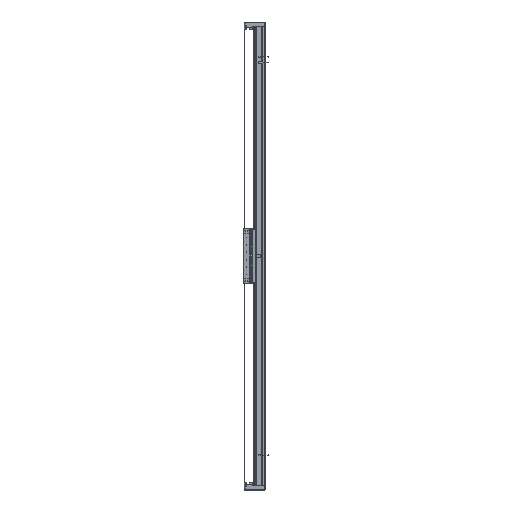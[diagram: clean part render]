
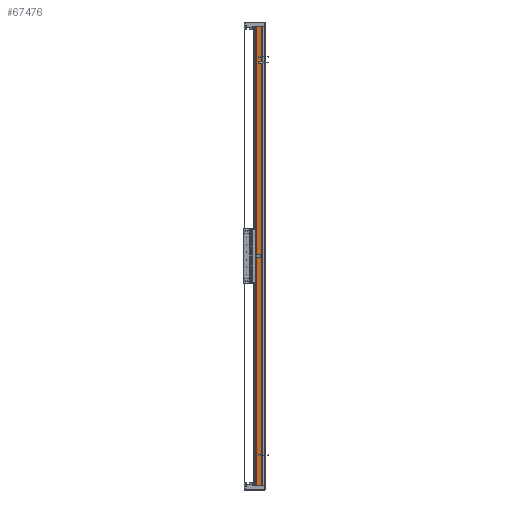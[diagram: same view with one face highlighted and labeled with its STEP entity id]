
A CAD part, left-side view. The second image highlights one B-rep face of the part: STEP entity #67476.
In plain terms, the highlighted planar face has unit normal (-1, 0, 0).
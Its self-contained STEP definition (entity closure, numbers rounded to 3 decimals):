
#3348 = DIRECTION ( 'NONE',  ( 1., 0., 0. ) ) ;
#10624 = LINE ( 'NONE', #82687, #55713 ) ;
#12740 = DIRECTION ( 'NONE',  ( 0., 1., 0. ) ) ;
#16464 = EDGE_CURVE ( 'NONE', #18716, #34701, #111025, .T. ) ;
#17412 = VERTEX_POINT ( 'NONE', #62494 ) ;
#18716 = VERTEX_POINT ( 'NONE', #32690 ) ;
#27760 = CARTESIAN_POINT ( 'NONE',  ( -82.5, 36.95, -1050. ) ) ;
#28319 = CARTESIAN_POINT ( 'NONE',  ( -82.5, 36.95, 1050. ) ) ;
#32690 = CARTESIAN_POINT ( 'NONE',  ( -82.5, 36.95, 1050. ) ) ;
#34701 = VERTEX_POINT ( 'NONE', #67931 ) ;
#37752 = EDGE_CURVE ( 'NONE', #18716, #17412, #10624, .T. ) ;
#39866 = AXIS2_PLACEMENT_3D ( 'NONE', #52141, #3348, #12740 ) ;
#42334 = CARTESIAN_POINT ( 'NONE',  ( -82.5, 14.45, 1050. ) ) ;
#47243 = CARTESIAN_POINT ( 'NONE',  ( -82.5, 14.45, -1050. ) ) ;
#52141 = CARTESIAN_POINT ( 'NONE',  ( -82.5, 36.95, 1050. ) ) ;
#52665 = DIRECTION ( 'NONE',  ( 0., -1., 0. ) ) ;
#53031 = LINE ( 'NONE', #42334, #116290 ) ;
#54331 = ORIENTED_EDGE ( 'NONE', *, *, #37752, .F. ) ;
#55713 = VECTOR ( 'NONE', #52665, 1000. ) ;
#61934 = ORIENTED_EDGE ( 'NONE', *, *, #16464, .T. ) ;
#62494 = CARTESIAN_POINT ( 'NONE',  ( -82.5, 14.45, 1050. ) ) ;
#64542 = EDGE_CURVE ( 'NONE', #17412, #88110, #53031, .T. ) ;
#67476 = ADVANCED_FACE ( 'NONE', ( #125496 ), #105435, .F. ) ;
#67931 = CARTESIAN_POINT ( 'NONE',  ( -82.5, 36.95, -1050. ) ) ;
#73726 = ORIENTED_EDGE ( 'NONE', *, *, #87076, .T. ) ;
#77682 = DIRECTION ( 'NONE',  ( 0., 0., -1. ) ) ;
#82687 = CARTESIAN_POINT ( 'NONE',  ( -82.5, 36.95, 1050. ) ) ;
#87076 = EDGE_CURVE ( 'NONE', #34701, #88110, #108485, .T. ) ;
#88110 = VERTEX_POINT ( 'NONE', #47243 ) ;
#98077 = EDGE_LOOP ( 'NONE', ( #73726, #110811, #54331, #61934 ) ) ;
#98439 = DIRECTION ( 'NONE',  ( 0., -1., 0. ) ) ;
#104349 = DIRECTION ( 'NONE',  ( 0., 0., -1. ) ) ;
#105435 = PLANE ( 'NONE',  #39866 ) ;
#108485 = LINE ( 'NONE', #27760, #117132 ) ;
#110811 = ORIENTED_EDGE ( 'NONE', *, *, #64542, .F. ) ;
#111025 = LINE ( 'NONE', #28319, #131616 ) ;
#116290 = VECTOR ( 'NONE', #104349, 1000. ) ;
#117132 = VECTOR ( 'NONE', #98439, 1000. ) ;
#125496 = FACE_OUTER_BOUND ( 'NONE', #98077, .T. ) ;
#131616 = VECTOR ( 'NONE', #77682, 1000. ) ;
